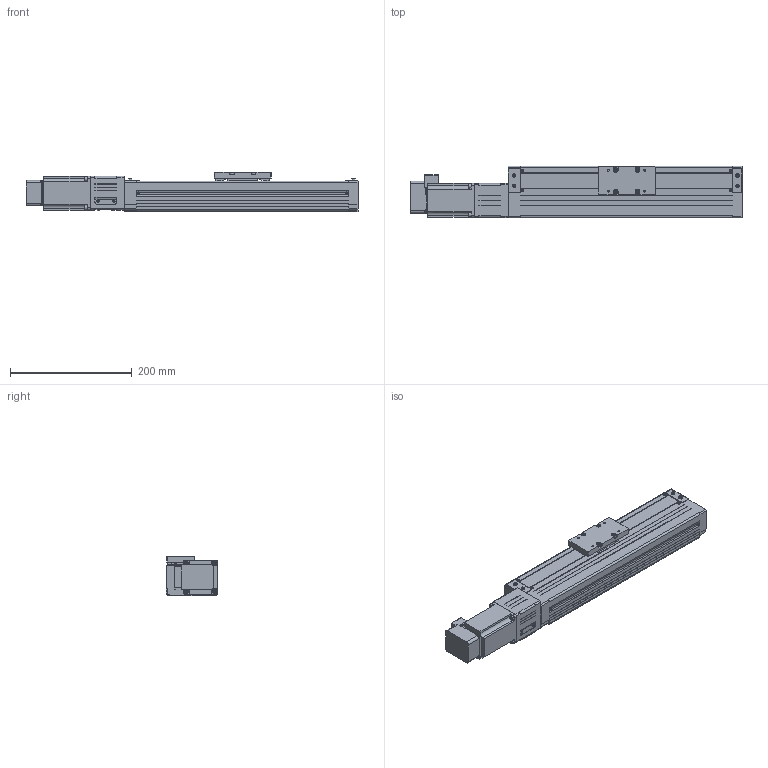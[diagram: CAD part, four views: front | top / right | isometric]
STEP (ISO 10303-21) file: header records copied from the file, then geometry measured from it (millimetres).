
FILE_DESCRIPTION((''),'2;1');
FILE_NAME('D:\製品 (図面)\カタログ用3D\SU部品\SU85×65\ダウンロード用\SU85×65-CM30\SU85×65-250-CM30.stp','2011-07-02T13:30:39',('Tsuchiya'),(''),'Autodesk Inventor 10','Autodesk Inventor 10','');
FILE_SCHEMA(('AUTOMOTIVE_DESIGN { 1 0 10303 214 1 1 1 1 }'));
Length unit declared in the file: millimetre
Products named in the file (4): SU85×65-250-CM30; SU85×65-250-CM301; SU85×65-250-CM302; SU85×65-250-CM303
Assembly tree (3 placements, depth 2):
  SU85×65-250-CM30
    SU85×65-250-CM301
    SU85×65-250-CM302
    SU85×65-250-CM303
Bounding box: 546.5 x 85 x 65 mm (x, y, z)
Volume: 1164635.3 mm3; surface area: 318065.7 mm2
Topology: 9 solids, 9 shells, 966 faces, 2546 edges, 1646 vertices
Faces by surface type: plane 798, cylinder 128, cone 24, torus 12, bspline 4
Full cylindrical faces by diameter (mm): 3.242 x8, 4 x4, 4.134 x8, 4.5 x4, 5.5 x4, 6 x1, 6.35 x1, 7 x8, 8 x1, 11.5 x1, 12 x1, 13 x1, 38.1 x2, 43 x1
Entity records: 29447 total; most frequent: CARTESIAN_POINT 5878, ORIENTED_EDGE 4854, DIRECTION 4640, EDGE_CURVE 2427, VECTOR 1924, LINE 1924, VERTEX_POINT 1612, AXIS2_PLACEMENT_3D 1358
